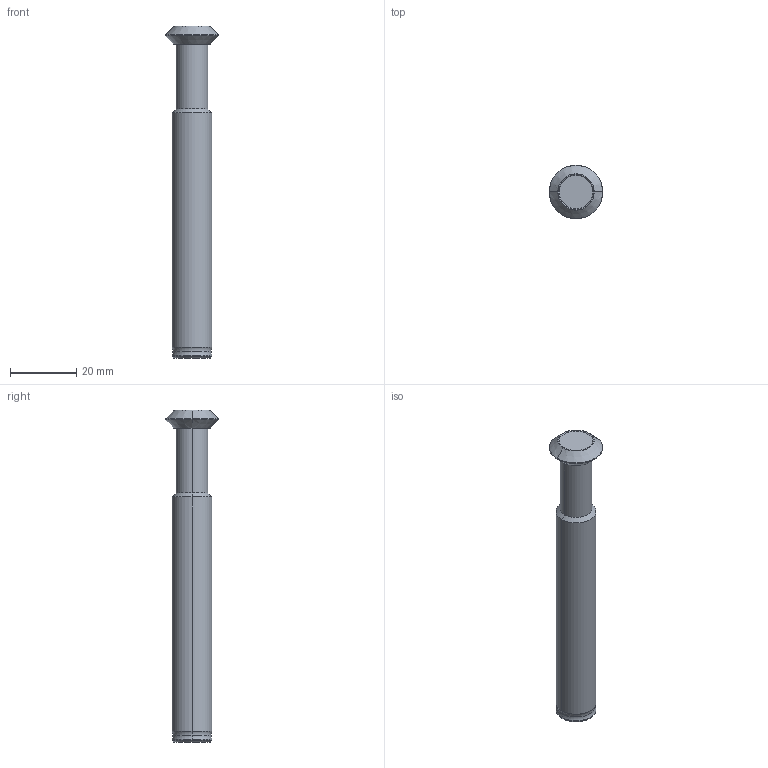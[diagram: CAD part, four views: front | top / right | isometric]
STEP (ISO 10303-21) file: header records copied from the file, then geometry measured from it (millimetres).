
FILE_DESCRIPTION (( 'STEP AP214' ), '1' );
FILE_NAME ('99616-C20.STEP', '2017-01-03T11:20:03', ( 'User' ), ( 'GENUINE' ), 'SwSTEP 2.0', 'SolidWorks 2012', '' );
FILE_SCHEMA (( 'AUTOMOTIVE_DESIGN' ));
Length unit declared in the file: millimetre
Products named in the file (1): 99616-C20
Bounding box: 16.15 x 16.15 x 100 mm (x, y, z)
Volume: 10636.1 mm3; surface area: 3974.2 mm2
Topology: 1 solids, 1 shells, 32 faces, 62 edges, 32 vertices
Faces by surface type: cone 14, torus 10, cylinder 6, plane 2
Entity records: 937 total; most frequent: DIRECTION 170, CARTESIAN_POINT 127, ORIENTED_EDGE 124, AXIS2_PLACEMENT_3D 75, EDGE_CURVE 62, CIRCLE 42, VERTEX_POINT 32, EDGE_LOOP 32
